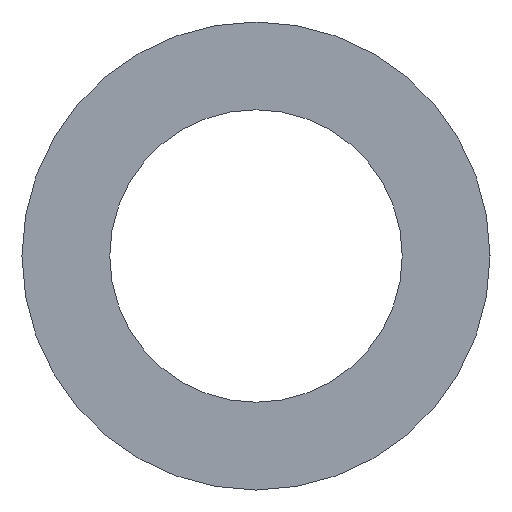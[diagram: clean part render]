
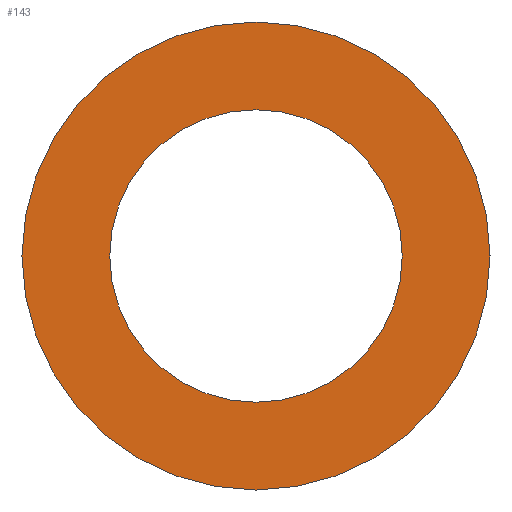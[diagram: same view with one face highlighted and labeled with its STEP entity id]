
A CAD part, left-side view. The second image highlights one B-rep face of the part: STEP entity #143.
In plain terms, the highlighted planar face has unit normal (-1, 0, 0).
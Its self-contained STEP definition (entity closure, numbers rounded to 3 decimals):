
#20=PLANE('',#174);
#32=ORIENTED_EDGE('',*,*,#56,.T.);
#33=ORIENTED_EDGE('',*,*,#55,.F.);
#55=EDGE_CURVE('',#67,#67,#79,.T.);
#56=EDGE_CURVE('',#68,#68,#80,.T.);
#67=VERTEX_POINT('',#254);
#68=VERTEX_POINT('',#257);
#79=CIRCLE('',#173,20.);
#80=CIRCLE('',#175,12.5);
#92=EDGE_LOOP('',(#32));
#93=EDGE_LOOP('',(#33));
#116=FACE_BOUND('',#92,.T.);
#117=FACE_BOUND('',#93,.T.);
#143=ADVANCED_FACE('',(#116,#117),#20,.F.);
#173=AXIS2_PLACEMENT_3D('',#253,#207,#208);
#174=AXIS2_PLACEMENT_3D('',#255,#209,#210);
#175=AXIS2_PLACEMENT_3D('',#256,#211,#212);
#207=DIRECTION('',(1.,0.,0.));
#208=DIRECTION('',(0.,0.,-1.));
#209=DIRECTION('',(1.,0.,0.));
#210=DIRECTION('',(0.,0.,-1.));
#211=DIRECTION('',(1.,0.,0.));
#212=DIRECTION('',(0.,0.,-1.));
#253=CARTESIAN_POINT('',(-56.,0.,0.));
#254=CARTESIAN_POINT('',(-56.,0.,-20.));
#255=CARTESIAN_POINT('',(-56.,0.,0.));
#256=CARTESIAN_POINT('',(-56.,0.,0.));
#257=CARTESIAN_POINT('',(-56.,0.,-12.5));
